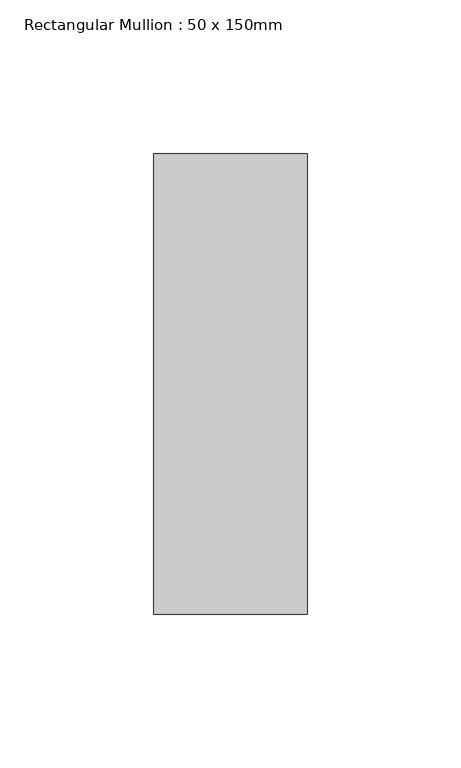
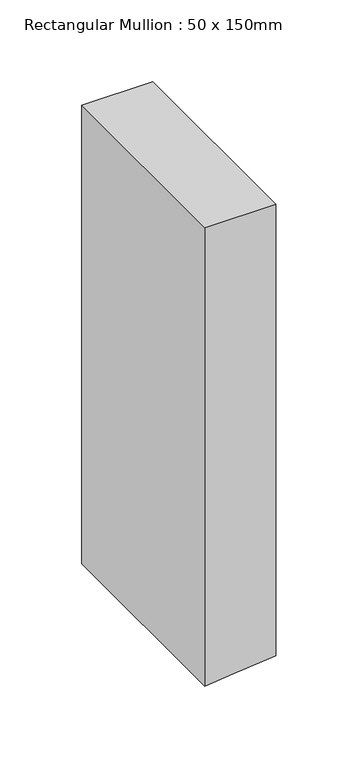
"""IFC4 building model written with IfcOpenShell, lengths in millimetres: member geometry, Rectangular Mullion : 50 x 150mm."""

from ifc_helpers import new_model, si_unit, frame, origin, place, context, project, spatial, polyline, outline, extrude, source, transform, mapped, element, save


def rectangular_mullion_50_x_150mm_763027d2(model_context):
    return source(origin(), model_context, "Body", "SweptSolid", [
        extrude(outline(polyline([(0.0, 25.0), (0.0, -25.0), (-341.3976736, -25.0), (-339.3869065, -5.0022633), (-336.3701869, 25.0), (0.0, 25.0)])), frame((0.0, -75.0, 0.0), z_axis=(0.0, 1.0, 0.0), x_axis=(0.0, 0.0, 1.0)), (0.0, 0.0, 1.0), 150.0),
    ])


if __name__ == "__main__":
    model = new_model("IFC4")
    model_context = context("Model", 3, world=origin())
    ifc_project = project(units=[si_unit("LENGTHUNIT", "METRE", prefix="MILLI")], contexts=[model_context])
    site = spatial("IfcSite", under=ifc_project)
    building = spatial("IfcBuilding", under=site)
    placement = place(None, origin())
    rectangular_mullion_50_x_150mm_shape = rectangular_mullion_50_x_150mm_763027d2(model_context)
    element("IfcMember", 1, ObjectType="Rectangular Mullion : 50 x 150mm", at=placement, inside=building, context=model_context, shape_type="MappedRepresentation", body=[
        mapped(rectangular_mullion_50_x_150mm_shape, transform((0.0, 0.0, 0.0), x_axis=(1.0, 0.0, 0.0), y_axis=(0.0, 1.0, 0.0), z_axis=(0.0, 0.0, 1.0))),
    ])
    save(model, "model.ifc")
